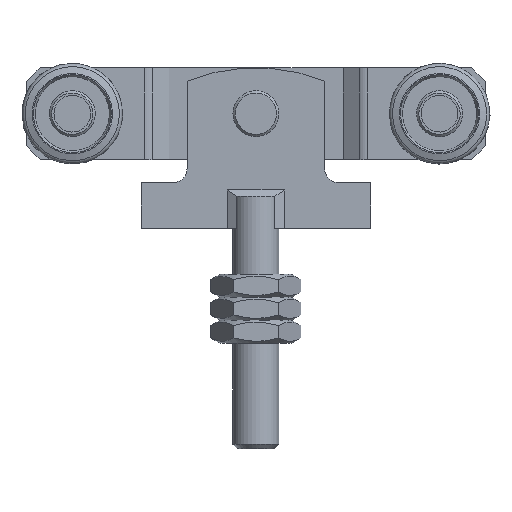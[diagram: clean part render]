
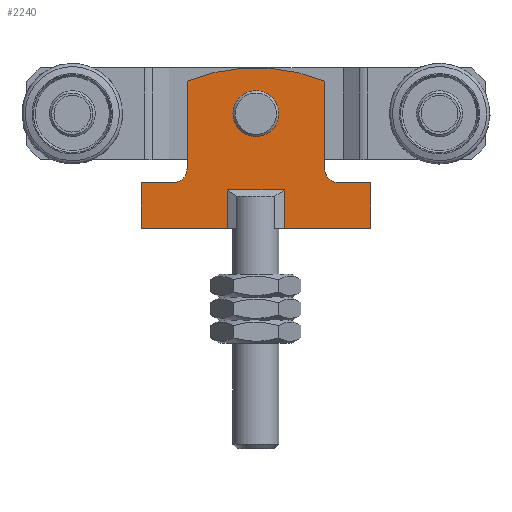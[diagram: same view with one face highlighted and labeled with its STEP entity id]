
A CAD part, front view. The second image highlights one B-rep face of the part: STEP entity #2240.
In plain terms, the highlighted planar face has unit normal (0, -1, 0) as drawn and (0, 0, 1) by its records, which use the part's own axes.
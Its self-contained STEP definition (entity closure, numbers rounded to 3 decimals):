
#128=FACE_BOUND('',#500,.T.);
#241=PLANE('',#2416);
#349=FACE_OUTER_BOUND('',#499,.T.);
#499=EDGE_LOOP('',(#1742,#1743,#1744,#1745,#1746,#1747,#1748,#1749,#1750,
#1751,#1752,#1753,#1754,#1755));
#500=EDGE_LOOP('',(#1756));
#697=LINE('',#3486,#879);
#700=LINE('',#3494,#882);
#702=LINE('',#3498,#884);
#704=LINE('',#3502,#886);
#706=LINE('',#3506,#888);
#708=LINE('',#3510,#890);
#710=LINE('',#3514,#892);
#712=LINE('',#3518,#894);
#714=LINE('',#3522,#896);
#716=LINE('',#3526,#898);
#719=LINE('',#3533,#901);
#879=VECTOR('',#2743,19.1);
#882=VECTOR('',#2752,7.);
#884=VECTOR('',#2756,10.);
#886=VECTOR('',#2760,19.9);
#888=VECTOR('',#2764,7.);
#890=VECTOR('',#2768,10.2);
#892=VECTOR('',#2772,7.);
#894=VECTOR('',#2776,19.9);
#896=VECTOR('',#2780,10.);
#898=VECTOR('',#2784,7.);
#901=VECTOR('',#2793,19.1);
#1031=CIRCLE('',#2394,3.2);
#1035=CIRCLE('',#2400,40.243);
#1036=CIRCLE('',#2403,3.);
#1037=CIRCLE('',#2414,3.);
#1129=VERTEX_POINT('',#3447);
#1144=VERTEX_POINT('',#3479);
#1145=VERTEX_POINT('',#3480);
#1146=VERTEX_POINT('',#3485);
#1147=VERTEX_POINT('',#3489);
#1148=VERTEX_POINT('',#3493);
#1149=VERTEX_POINT('',#3497);
#1150=VERTEX_POINT('',#3501);
#1151=VERTEX_POINT('',#3505);
#1152=VERTEX_POINT('',#3509);
#1153=VERTEX_POINT('',#3513);
#1154=VERTEX_POINT('',#3517);
#1155=VERTEX_POINT('',#3521);
#1156=VERTEX_POINT('',#3525);
#1157=VERTEX_POINT('',#3529);
#1340=EDGE_CURVE('',#1129,#1129,#1031,.T.);
#1355=EDGE_CURVE('',#1144,#1145,#1035,.T.);
#1358=EDGE_CURVE('',#1145,#1146,#697,.T.);
#1360=EDGE_CURVE('',#1146,#1147,#1036,.T.);
#1362=EDGE_CURVE('',#1147,#1148,#700,.T.);
#1364=EDGE_CURVE('',#1148,#1149,#702,.T.);
#1366=EDGE_CURVE('',#1149,#1150,#704,.T.);
#1368=EDGE_CURVE('',#1150,#1151,#706,.T.);
#1370=EDGE_CURVE('',#1151,#1152,#708,.T.);
#1372=EDGE_CURVE('',#1152,#1153,#710,.T.);
#1374=EDGE_CURVE('',#1153,#1154,#712,.T.);
#1376=EDGE_CURVE('',#1154,#1155,#714,.T.);
#1378=EDGE_CURVE('',#1155,#1156,#716,.T.);
#1380=EDGE_CURVE('',#1156,#1157,#1037,.T.);
#1382=EDGE_CURVE('',#1157,#1144,#719,.T.);
#1742=ORIENTED_EDGE('',*,*,#1355,.F.);
#1743=ORIENTED_EDGE('',*,*,#1382,.F.);
#1744=ORIENTED_EDGE('',*,*,#1380,.F.);
#1745=ORIENTED_EDGE('',*,*,#1378,.F.);
#1746=ORIENTED_EDGE('',*,*,#1376,.F.);
#1747=ORIENTED_EDGE('',*,*,#1374,.F.);
#1748=ORIENTED_EDGE('',*,*,#1372,.F.);
#1749=ORIENTED_EDGE('',*,*,#1370,.F.);
#1750=ORIENTED_EDGE('',*,*,#1368,.F.);
#1751=ORIENTED_EDGE('',*,*,#1366,.F.);
#1752=ORIENTED_EDGE('',*,*,#1364,.F.);
#1753=ORIENTED_EDGE('',*,*,#1362,.F.);
#1754=ORIENTED_EDGE('',*,*,#1360,.F.);
#1755=ORIENTED_EDGE('',*,*,#1358,.F.);
#1756=ORIENTED_EDGE('',*,*,#1340,.T.);
#2240=ADVANCED_FACE('',(#349,#128),#241,.T.);
#2394=AXIS2_PLACEMENT_3D('',#3448,#2714,#2715);
#2400=AXIS2_PLACEMENT_3D('',#3481,#2737,#2738);
#2403=AXIS2_PLACEMENT_3D('',#3490,#2747,#2748);
#2414=AXIS2_PLACEMENT_3D('',#3530,#2788,#2789);
#2416=AXIS2_PLACEMENT_3D('',#3534,#2794,#2795);
#2714=DIRECTION('center_axis',(0.,0.,-1.));
#2715=DIRECTION('ref_axis',(-1.,0.,0.));
#2737=DIRECTION('center_axis',(0.,0.,-1.));
#2738=DIRECTION('ref_axis',(0.373,0.928,0.));
#2743=DIRECTION('',(0.,-1.,0.));
#2747=DIRECTION('center_axis',(0.,0.,1.));
#2748=DIRECTION('ref_axis',(1.,0.,0.));
#2752=DIRECTION('',(1.,0.,0.));
#2756=DIRECTION('',(0.,-1.,0.));
#2760=DIRECTION('',(-1.,0.,0.));
#2764=DIRECTION('',(0.,1.,0.));
#2768=DIRECTION('',(-1.,0.,0.));
#2772=DIRECTION('',(0.,-1.,0.));
#2776=DIRECTION('',(-1.,0.,0.));
#2780=DIRECTION('',(0.,1.,0.));
#2784=DIRECTION('',(1.,0.,0.));
#2788=DIRECTION('center_axis',(0.,0.,1.));
#2789=DIRECTION('ref_axis',(0.,1.,0.));
#2793=DIRECTION('',(0.,1.,0.));
#2794=DIRECTION('center_axis',(0.,0.,1.));
#2795=DIRECTION('ref_axis',(1.,0.,0.));
#3447=CARTESIAN_POINT('',(3.2,0.,1.5));
#3448=CARTESIAN_POINT('Origin',(0.,0.,1.5));
#3479=CARTESIAN_POINT('',(-15.,7.1,1.5));
#3480=CARTESIAN_POINT('',(15.,7.1,1.5));
#3481=CARTESIAN_POINT('Origin',(0.,-30.243,
1.5));
#3485=CARTESIAN_POINT('',(15.,-12.,1.5));
#3486=CARTESIAN_POINT('',(15.,-12.,1.5));
#3489=CARTESIAN_POINT('',(18.,-15.,1.5));
#3490=CARTESIAN_POINT('Origin',(18.,-12.,1.5));
#3493=CARTESIAN_POINT('',(25.,-15.,1.5));
#3494=CARTESIAN_POINT('',(25.,-15.,1.5));
#3497=CARTESIAN_POINT('',(25.,-25.,1.5));
#3498=CARTESIAN_POINT('',(25.,-25.,1.5));
#3501=CARTESIAN_POINT('',(5.1,-25.,1.5));
#3502=CARTESIAN_POINT('',(5.1,-25.,1.5));
#3505=CARTESIAN_POINT('',(5.1,-18.,1.5));
#3506=CARTESIAN_POINT('',(5.1,-18.,1.5));
#3509=CARTESIAN_POINT('',(-5.1,-18.,1.5));
#3510=CARTESIAN_POINT('',(-5.1,-18.,1.5));
#3513=CARTESIAN_POINT('',(-5.1,-25.,1.5));
#3514=CARTESIAN_POINT('',(-5.1,-25.,1.5));
#3517=CARTESIAN_POINT('',(-25.,-25.,1.5));
#3518=CARTESIAN_POINT('',(-25.,-25.,1.5));
#3521=CARTESIAN_POINT('',(-25.,-15.,1.5));
#3522=CARTESIAN_POINT('',(-25.,-15.,1.5));
#3525=CARTESIAN_POINT('',(-18.,-15.,1.5));
#3526=CARTESIAN_POINT('',(-18.,-15.,1.5));
#3529=CARTESIAN_POINT('',(-15.,-12.,1.5));
#3530=CARTESIAN_POINT('Origin',(-18.,-12.,1.5));
#3533=CARTESIAN_POINT('',(-15.,7.1,1.5));
#3534=CARTESIAN_POINT('Origin',(0.,-11.58,
1.5));
